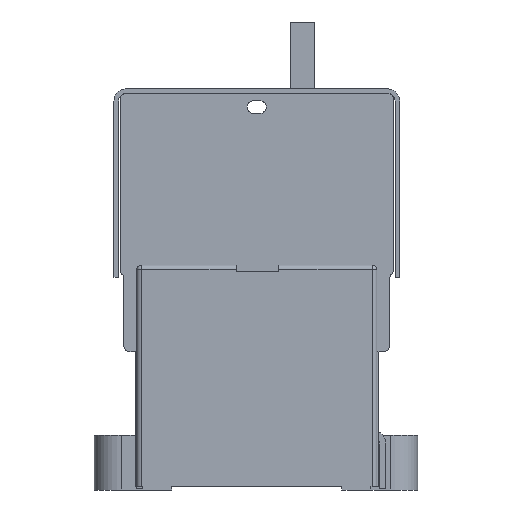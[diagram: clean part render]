
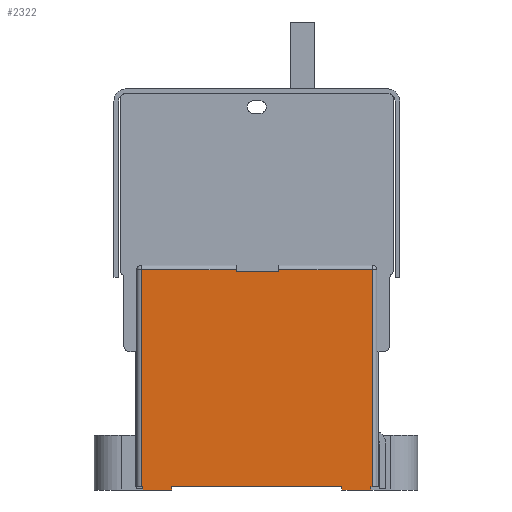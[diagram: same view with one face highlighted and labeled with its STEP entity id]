
A CAD part, left-side view. The second image highlights one B-rep face of the part: STEP entity #2322.
In plain terms, the highlighted planar face has unit normal (-1, 0, 0).
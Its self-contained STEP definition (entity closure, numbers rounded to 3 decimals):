
#2322=ADVANCED_FACE('',(#3924),#2988,.F.);
#2988=PLANE('',#21319);
#3924=FACE_OUTER_BOUND('',#5107,.T.);
#5107=EDGE_LOOP('',(#10201,#10202,#10203,#10204,#10205,#10206,#10207,#10208,
#10209,#10210,#10211,#10212,#10213,#10214,#10215,#10216));
#10201=ORIENTED_EDGE('',*,*,#15422,.F.);
#10202=ORIENTED_EDGE('',*,*,#15210,.T.);
#10203=ORIENTED_EDGE('',*,*,#15034,.T.);
#10204=ORIENTED_EDGE('',*,*,#15424,.F.);
#10205=ORIENTED_EDGE('',*,*,#15037,.T.);
#10206=ORIENTED_EDGE('',*,*,#15170,.T.);
#10207=ORIENTED_EDGE('',*,*,#15425,.T.);
#10208=ORIENTED_EDGE('',*,*,#15426,.T.);
#10209=ORIENTED_EDGE('',*,*,#15427,.F.);
#10210=ORIENTED_EDGE('',*,*,#15257,.F.);
#10211=ORIENTED_EDGE('',*,*,#15262,.T.);
#10212=ORIENTED_EDGE('',*,*,#15428,.T.);
#10213=ORIENTED_EDGE('',*,*,#15270,.F.);
#10214=ORIENTED_EDGE('',*,*,#15264,.F.);
#10215=ORIENTED_EDGE('',*,*,#15429,.T.);
#10216=ORIENTED_EDGE('',*,*,#15430,.T.);
#12439=VERTEX_POINT('',#31784);
#12440=VERTEX_POINT('',#31786);
#12442=VERTEX_POINT('',#31792);
#12443=VERTEX_POINT('',#31793);
#12531=VERTEX_POINT('',#32098);
#12532=VERTEX_POINT('',#32102);
#12578=VERTEX_POINT('',#32283);
#12579=VERTEX_POINT('',#32284);
#12583=VERTEX_POINT('',#32293);
#12584=VERTEX_POINT('',#32298);
#12585=VERTEX_POINT('',#32299);
#12588=VERTEX_POINT('',#32307);
#12683=VERTEX_POINT('',#32601);
#12684=VERTEX_POINT('',#32606);
#12685=VERTEX_POINT('',#32608);
#12686=VERTEX_POINT('',#32612);
#15034=EDGE_CURVE('',#12440,#12439,#17245,.T.);
#15037=EDGE_CURVE('',#12442,#12443,#17247,.T.);
#15170=EDGE_CURVE('',#12443,#12532,#17317,.T.);
#15210=EDGE_CURVE('',#12531,#12440,#17333,.T.);
#15257=EDGE_CURVE('',#12578,#12579,#17368,.T.);
#15262=EDGE_CURVE('',#12578,#12583,#17373,.T.);
#15264=EDGE_CURVE('',#12584,#12585,#17375,.T.);
#15270=EDGE_CURVE('',#12585,#12588,#17381,.T.);
#15422=EDGE_CURVE('',#12531,#12683,#17520,.T.);
#15424=EDGE_CURVE('',#12442,#12439,#17521,.T.);
#15425=EDGE_CURVE('',#12532,#12684,#17522,.T.);
#15426=EDGE_CURVE('',#12684,#12685,#17523,.T.);
#15427=EDGE_CURVE('',#12579,#12685,#17524,.T.);
#15428=EDGE_CURVE('',#12583,#12588,#17525,.T.);
#15429=EDGE_CURVE('',#12584,#12686,#17526,.T.);
#15430=EDGE_CURVE('',#12686,#12683,#17527,.T.);
#17245=LINE('',#31785,#19329);
#17247=LINE('',#31791,#19331);
#17317=LINE('',#32103,#19401);
#17333=LINE('',#32183,#19417);
#17368=LINE('',#32282,#19452);
#17373=LINE('',#32294,#19457);
#17375=LINE('',#32297,#19459);
#17381=LINE('',#32310,#19465);
#17520=LINE('',#32600,#19604);
#17521=LINE('',#32604,#19605);
#17522=LINE('',#32605,#19606);
#17523=LINE('',#32607,#19607);
#17524=LINE('',#32609,#19608);
#17525=LINE('',#32610,#19609);
#17526=LINE('',#32611,#19610);
#17527=LINE('',#32613,#19611);
#19329=VECTOR('',#25750,1.);
#19331=VECTOR('',#25756,1.);
#19401=VECTOR('',#26044,1.);
#19417=VECTOR('',#26156,1.);
#19452=VECTOR('',#26261,1.);
#19457=VECTOR('',#26268,1.);
#19459=VECTOR('',#26272,1.);
#19465=VECTOR('',#26280,1.);
#19604=VECTOR('',#26535,1.);
#19605=VECTOR('',#26540,1.);
#19606=VECTOR('',#26541,1.);
#19607=VECTOR('',#26542,1.);
#19608=VECTOR('',#26543,1.);
#19609=VECTOR('',#26544,1.);
#19610=VECTOR('',#26545,1.);
#19611=VECTOR('',#26546,1.);
#21319=AXIS2_PLACEMENT_3D('',#32614,#26547,#26548);
#25750=DIRECTION('',(0.,0.,-1.));
#25756=DIRECTION('',(0.,0.,1.));
#26044=DIRECTION('',(0.,1.,0.));
#26156=DIRECTION('',(0.,1.,0.));
#26261=DIRECTION('',(0.,1.,0.));
#26268=DIRECTION('',(0.,0.,1.));
#26272=DIRECTION('',(0.,1.,0.));
#26280=DIRECTION('',(0.,0.,1.));
#26535=DIRECTION('',(0.,0.,-1.));
#26540=DIRECTION('',(0.,-1.,0.));
#26541=DIRECTION('',(0.,0.,-1.));
#26542=DIRECTION('',(0.,-1.,0.));
#26543=DIRECTION('',(0.,0.,1.));
#26544=DIRECTION('',(0.,-1.,0.));
#26545=DIRECTION('',(0.,0.,1.));
#26546=DIRECTION('',(0.,-1.,0.));
#26547=DIRECTION('',(1.,0.,0.));
#26548=DIRECTION('',(0.,0.,-1.));
#31784=CARTESIAN_POINT('',(-69.,-31.985,67.));
#31785=CARTESIAN_POINT('',(-69.,-31.985,69.1));
#31786=CARTESIAN_POINT('',(-69.,-31.985,67.6));
#31791=CARTESIAN_POINT('',(-69.,-17.985,69.1));
#31792=CARTESIAN_POINT('',(-69.,-17.985,67.));
#31793=CARTESIAN_POINT('',(-69.,-17.985,67.6));
#32098=CARTESIAN_POINT('',(-69.,-62.735,67.6));
#32102=CARTESIAN_POINT('',(-69.,13.265,67.6));
#32103=CARTESIAN_POINT('',(-69.,13.265,67.6));
#32183=CARTESIAN_POINT('',(-69.,13.265,67.6));
#32282=CARTESIAN_POINT('',(-69.,3.265,-4.9));
#32283=CARTESIAN_POINT('',(-69.,3.265,-4.9));
#32284=CARTESIAN_POINT('',(-69.,12.765,-4.9));
#32293=CARTESIAN_POINT('',(-69.,3.265,-3.9));
#32294=CARTESIAN_POINT('',(-69.,3.265,-5.9));
#32297=CARTESIAN_POINT('',(-69.,-62.235,-4.9));
#32298=CARTESIAN_POINT('',(-69.,-62.235,-4.9));
#32299=CARTESIAN_POINT('',(-69.,-52.735,-4.9));
#32307=CARTESIAN_POINT('',(-69.,-52.735,-3.9));
#32310=CARTESIAN_POINT('',(-69.,-52.735,-5.9));
#32600=CARTESIAN_POINT('',(-69.,-62.735,69.1));
#32601=CARTESIAN_POINT('',(-69.,-62.735,-3.9));
#32604=CARTESIAN_POINT('',(-69.,12.765,67.));
#32605=CARTESIAN_POINT('',(-69.,13.265,69.1));
#32606=CARTESIAN_POINT('',(-69.,13.265,-3.9));
#32607=CARTESIAN_POINT('',(-69.,-62.235,-3.9));
#32608=CARTESIAN_POINT('',(-69.,12.765,-3.9));
#32609=CARTESIAN_POINT('',(-69.,12.765,-5.9));
#32610=CARTESIAN_POINT('',(-69.,-62.235,-3.9));
#32611=CARTESIAN_POINT('',(-69.,-62.235,-5.9));
#32612=CARTESIAN_POINT('',(-69.,-62.235,-3.9));
#32613=CARTESIAN_POINT('',(-69.,-62.235,-3.9));
#32614=CARTESIAN_POINT('',(-69.,-62.235,69.1));
